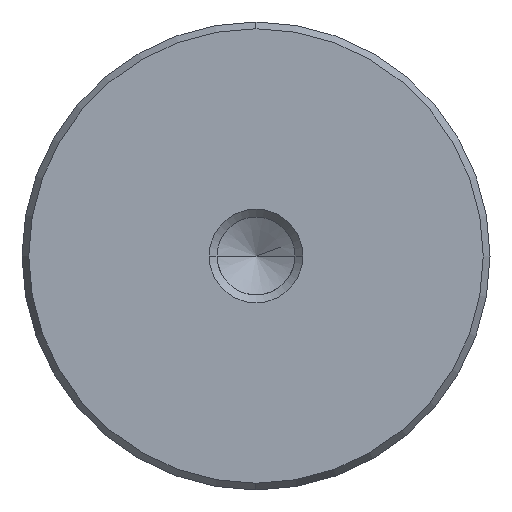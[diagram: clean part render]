
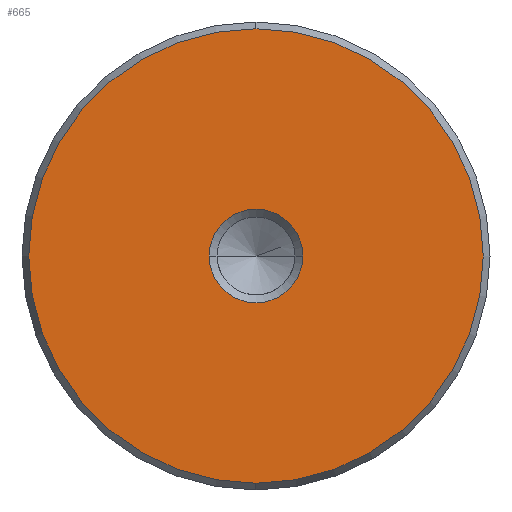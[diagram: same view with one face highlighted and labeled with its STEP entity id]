
A CAD part, left-side view. The second image highlights one B-rep face of the part: STEP entity #665.
In plain terms, the highlighted planar face has unit normal (-1, 0, 0).
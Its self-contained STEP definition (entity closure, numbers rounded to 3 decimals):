
#579=CARTESIAN_POINT('Vertex',(0.,0.,-19.423)) ;
#582=CARTESIAN_POINT('Axis2P3D Location',(0.,0.,0.)) ;
#586=CARTESIAN_POINT('Vertex',(0.,19.423,0.)) ;
#589=CARTESIAN_POINT('Axis2P3D Location',(0.,0.,0.)) ;
#593=CARTESIAN_POINT('Vertex',(0.,0.,19.423)) ;
#615=CARTESIAN_POINT('Axis2P3D Location',(0.,0.,0.)) ;
#619=CARTESIAN_POINT('Vertex',(0.,-19.423,0.)) ;
#622=CARTESIAN_POINT('Axis2P3D Location',(0.,0.,0.)) ;
#636=CARTESIAN_POINT('Axis2P3D Location',(0.,0.,0.)) ;
#647=CARTESIAN_POINT('Axis2P3D Location',(0.,0.,0.)) ;
#651=CARTESIAN_POINT('Vertex',(0.,4.,0.)) ;
#653=CARTESIAN_POINT('Vertex',(0.,-4.,0.)) ;
#656=CARTESIAN_POINT('Axis2P3D Location',(0.,0.,0.)) ;
#583=DIRECTION('Axis2P3D Direction',(1.,0.,-0.)) ;
#590=DIRECTION('Axis2P3D Direction',(1.,0.,-0.)) ;
#616=DIRECTION('Axis2P3D Direction',(1.,0.,-0.)) ;
#623=DIRECTION('Axis2P3D Direction',(1.,0.,-0.)) ;
#637=DIRECTION('Axis2P3D Direction',(1.,0.,-0.)) ;
#638=DIRECTION('Axis2P3D XDirection',(-0.,0.,-1.)) ;
#648=DIRECTION('Axis2P3D Direction',(1.,0.,-0.)) ;
#657=DIRECTION('Axis2P3D Direction',(1.,0.,-0.)) ;
#584=AXIS2_PLACEMENT_3D('Circle Axis2P3D',#582,#583,$) ;
#591=AXIS2_PLACEMENT_3D('Circle Axis2P3D',#589,#590,$) ;
#617=AXIS2_PLACEMENT_3D('Circle Axis2P3D',#615,#616,$) ;
#624=AXIS2_PLACEMENT_3D('Circle Axis2P3D',#622,#623,$) ;
#639=AXIS2_PLACEMENT_3D('Plane Axis2P3D',#636,#637,#638) ;
#649=AXIS2_PLACEMENT_3D('Circle Axis2P3D',#647,#648,$) ;
#658=AXIS2_PLACEMENT_3D('Circle Axis2P3D',#656,#657,$) ;
#642=ORIENTED_EDGE('',*,*,#588,.F.) ;
#643=ORIENTED_EDGE('',*,*,#626,.F.) ;
#644=ORIENTED_EDGE('',*,*,#621,.F.) ;
#645=ORIENTED_EDGE('',*,*,#595,.F.) ;
#662=ORIENTED_EDGE('',*,*,#655,.T.) ;
#663=ORIENTED_EDGE('',*,*,#660,.T.) ;
#664=FACE_BOUND('',#661,.T.) ;
#665=ADVANCED_FACE('720-40x500',(#646,#664),#640,.F.) ;
#585=CIRCLE('generated circle',#584,19.423) ;
#592=CIRCLE('generated circle',#591,19.423) ;
#618=CIRCLE('generated circle',#617,19.423) ;
#625=CIRCLE('generated circle',#624,19.423) ;
#650=CIRCLE('generated circle',#649,4.) ;
#659=CIRCLE('generated circle',#658,4.) ;
#588=EDGE_CURVE('',#580,#587,#585,.T.) ;
#595=EDGE_CURVE('',#587,#594,#592,.T.) ;
#621=EDGE_CURVE('',#594,#620,#618,.T.) ;
#626=EDGE_CURVE('',#620,#580,#625,.T.) ;
#655=EDGE_CURVE('',#652,#654,#650,.T.) ;
#660=EDGE_CURVE('',#654,#652,#659,.T.) ;
#641=EDGE_LOOP('',(#642,#643,#644,#645)) ;
#661=EDGE_LOOP('',(#662,#663)) ;
#646=FACE_OUTER_BOUND('',#641,.T.) ;
#640=PLANE('Plane',#639) ;
#580=VERTEX_POINT('',#579) ;
#587=VERTEX_POINT('',#586) ;
#594=VERTEX_POINT('',#593) ;
#620=VERTEX_POINT('',#619) ;
#652=VERTEX_POINT('',#651) ;
#654=VERTEX_POINT('',#653) ;
